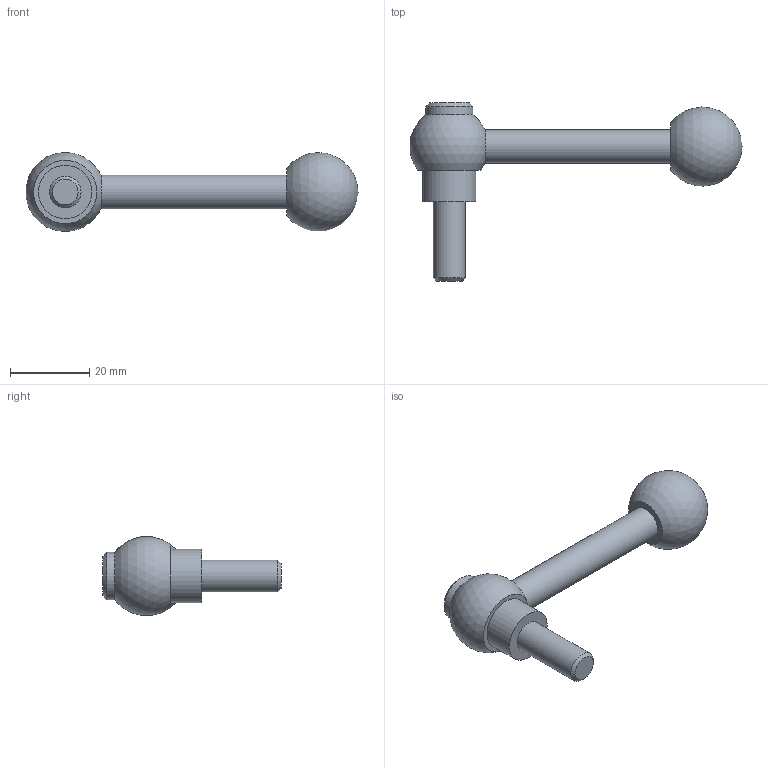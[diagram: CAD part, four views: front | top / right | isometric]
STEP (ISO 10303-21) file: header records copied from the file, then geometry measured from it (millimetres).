
FILE_DESCRIPTION( ( 'STEP AP203' ), '1' );
FILE_NAME( 'C:/Temp/Ganter_Step_05_03_2020/data/2_1/gn_6337_3/gn_6337_3_ms/gn_6337_3_ms_m/Adjustable clamping lever with bolt GN 6337.3-20-M8-20-M.stp', '2020-03-05T11:41:12', ( 'License CC BY-ND 4.0' ), ( 'CADENAS' ), ' ', 'PARTsolutions', ' ' );
FILE_SCHEMA( ( 'CONFIG_CONTROL_DESIGN' ) );
Length unit declared in the file: millimetre
Products named in the file (1): _Adjustable clamping lever with bolt GN 6337.3-20-M8-20-M
Bounding box: 83.92 x 45 x 19.99 mm (x, y, z)
Volume: 12809.1 mm3; surface area: 4494.8 mm2
Topology: 1 solids, 1 shells, 13 faces, 23 edges, 15 vertices
Faces by surface type: plane 5, cylinder 4, cone 2, sphere 2
Full cylindrical faces by diameter (mm): 8 x1, 8.5 x1, 12 x1, 13.5 x1
Entity records: 302 total; most frequent: DIRECTION 52, CARTESIAN_POINT 39, AXIS2_PLACEMENT_3D 26, EDGE_LOOP 24, ORIENTED_EDGE 24, FACE_OUTER_BOUND 18, ADVANCED_FACE 13, VERTEX_POINT 13
